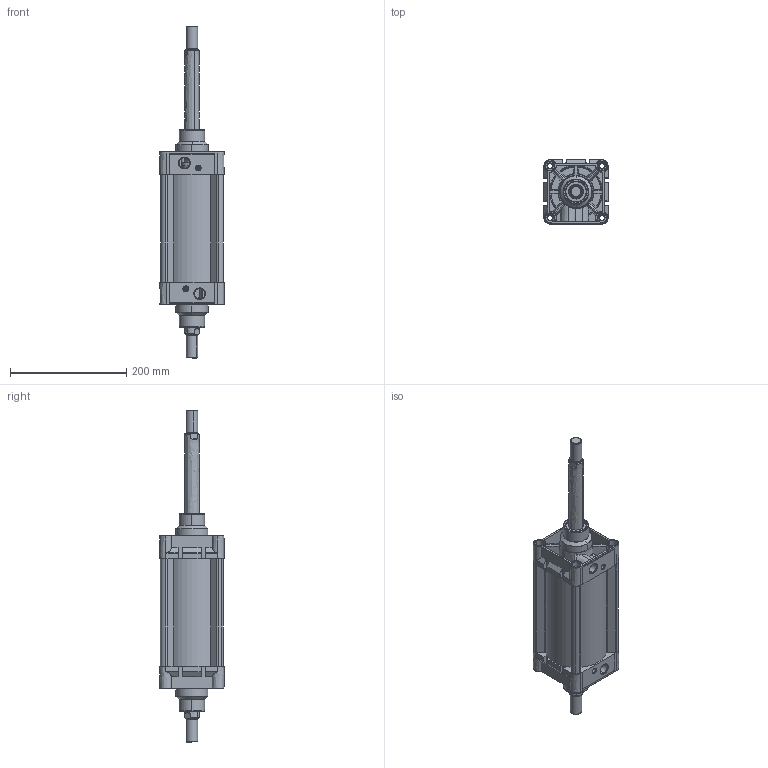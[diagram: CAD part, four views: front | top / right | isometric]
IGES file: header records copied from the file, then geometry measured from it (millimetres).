
Start section: SolidWorks IGES file using analytic representation for surfaces
Global section: file name: D:\ARICA 3D 禽Z軲LER\3D IGES\MDNC 禽FT M軱L輁MDNC100\MDNC100X125CIFTMILLI-CYLINDER.IGS; native system: SolidWorks 2013; preprocessor: SolidWorks 2013; author: user; date: 150326.100403; units: millimetre
Bounding box: 110.06 x 110.35 x 570 mm (x, y, z)
Surface area: 471092.8 mm2 (no closed solid volume)
Topology: 0 solids, 0 shells, 1112 faces, 18944 edges, 18932 vertices
Faces by surface type: revolution 645, bspline 467
